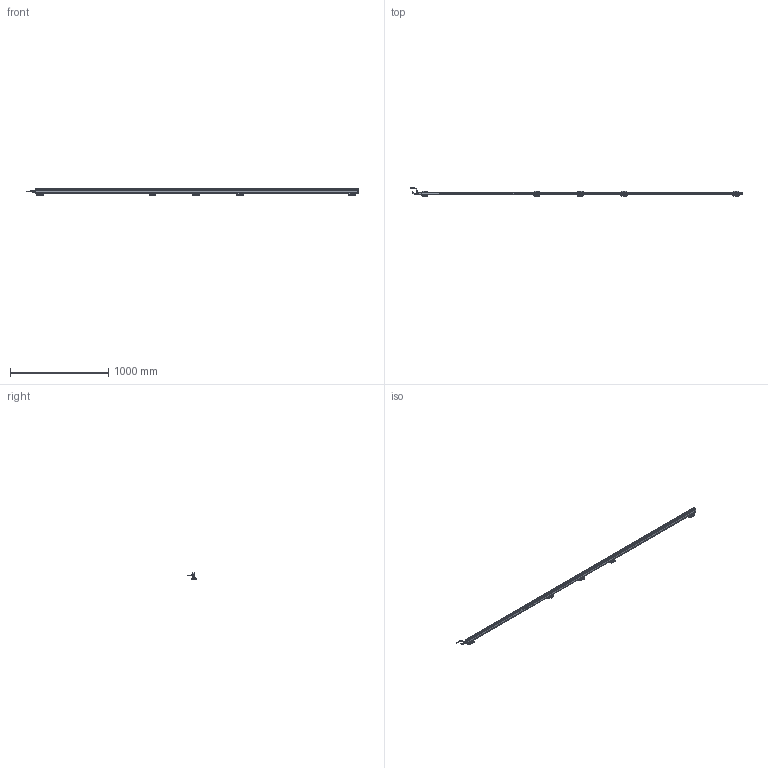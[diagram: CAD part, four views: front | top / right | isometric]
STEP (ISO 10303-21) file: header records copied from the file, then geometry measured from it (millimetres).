
FILE_DESCRIPTION(('Bauteilbeschreibung','HiCAD-Model','HiCAD-STEP-TRANSLATION','Bauteilbeschreibung'),'2;1');
FILE_NAME('PERFORMAXIQEASY_3210-3300_3D.STP','2014-03-05T13:16:15+00:00',('Konstrukteur'),('Konstrukteur Firma GmbH'),' HiCAD 2011, Step 1600.0 ','HiCAD 2011','confidential');
FILE_SCHEMA(('AUTOMOTIVE_DESIGN { 1 2 10303 214 0 1 1 1 }'));
Products named in the file (51): PERFORMAXIQEASY_3210_3300_3D; A_PERFORMAX IQ EASY 3210_3300; A_PERFORMAX IQ EASY SPEED; A_CAP DE; A_CAP CE_5; LED_2C_3MM; LED02C03MM; A519020315_CONNECTOR APPLIANCE; A_INSERT; A_CONTACTS; A_HOUSING; A_PROFILE; A_POTTING; PIN; PIN0; A532000100_BRACKET BARS_ MOUNT; A_SIDE PIECE; A0SIDE0PIECE; A_BRACKET SMALL; A_SLIDE PIECE; A5320001000BRACKET0BARS00MOUNT; A0SIDE0PIECE0; A0SIDE0PIECE1; A0BRACKET0SMALL; A0SLIDE0PIECE; A5320001000BRACKET0BARS00MOUNT0; A0SIDE0PIECE2; A0SIDE0PIECE3; A0BRACKET0SMALL0; A0SLIDE0PIECE0; A0SIDE0PIECE4; A0SIDE0PIECE5; A0BRACKET0SMALL1; A0SLIDE0PIECE1; A0SIDE0PIECE6; A0SIDE0PIECE7; A0BRACKET0SMALL2; A0SLIDE0PIECE2; A_CONNECTOR STRAIGHT; EXTRUDED SOLID_0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
Assembly tree (50 placements, depth 5):
  PERFORMAXIQEASY_3210_3300_3D
    A_PERFORMAX IQ EASY 3210_3300
      A_PERFORMAX IQ EASY SPEED
        A_CAP DE
        A_CAP CE_5
        LED_2C_3MM
        LED02C03MM
        A519020315_CONNECTOR APPLIANCE
          A_INSERT
          A_CONTACTS
          A_HOUSING
        A_PROFILE
        A_POTTING
        PIN
        PIN0
      A532000100_BRACKET BARS_ MOUNT
        A_SIDE PIECE
        A0SIDE0PIECE
        A_BRACKET SMALL
        A_SLIDE PIECE
      A5320001000BRACKET0BARS00MOUNT
        A0SIDE0PIECE0
        A0SIDE0PIECE1
        A0BRACKET0SMALL
        A0SLIDE0PIECE
      A5320001000BRACKET0BARS00MOUNT0
        A0SIDE0PIECE2
        A0SIDE0PIECE3
        A0BRACKET0SMALL0
        A0SLIDE0PIECE0
      A5320001000BRACKET0BARS00MOUNT0
        A0SIDE0PIECE4
        A0SIDE0PIECE5
        A0BRACKET0SMALL1
        A0SLIDE0PIECE1
      A5320001000BRACKET0BARS00MOUNT0
        A0SIDE0PIECE6
        A0SIDE0PIECE7
        A0BRACKET0SMALL2
        A0SLIDE0PIECE2
      A_CONNECTOR STRAIGHT
        EXTRUDED SOLID_0
        DRAAD GEBOGEN
        REVOLVED SOLID_1
        REVOLVED SOLID_3
      A_CONNECTOR ANGLED
        REVOLVED0SOLID01
        EXTRUDED0SOLID00
        C_EDGE SWEEP_0
        REVOLVED SOLID_2
        REVOLVED0SOLID03
Bounding box: 3377.89 x 84.28 x 63.13 mm (x, y, z)
Volume: 3400501.8 mm3; surface area: 826350.7 mm2
Topology: 45 solids, 45 shells, 4215 faces, 10820 edges, 6422 vertices
Faces by surface type: cylinder 1797, plane 1597, sphere 277, torus 252, bspline 208, cone 84
Full cylindrical faces by diameter (mm): 0.8 x10, 1 x5, 2.387 x10, 3 x23, 3.1 x1, 4.2 x2, 5 x4, 5.5 x25, 8 x2, 8.2 x1, 8.4 x2, 8.945 x1, 9 x2, 10.2 x1, 10.5 x3, 11 x1, 12 x3, 12.8 x1, 13.8 x4, 14.5 x3
Entity records: 195163 total; most frequent: CARTESIAN_POINT 45850, DIRECTION 20961, ORIENTED_EDGE 20534, EDGE_CURVE 10267, COLOUR_RGB 9750, PRESENTATION_STYLE_ASSIGNMENT 9750, OVER_RIDING_STYLED_ITEM 9710, CURVE_STYLE 9705
